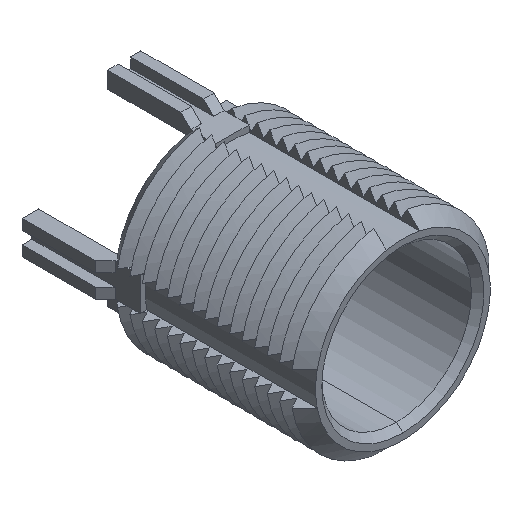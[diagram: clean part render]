
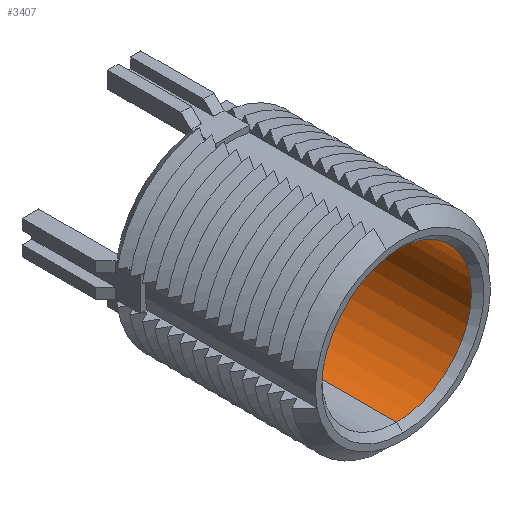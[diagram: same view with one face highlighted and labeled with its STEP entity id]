
A CAD part, isometric view. The second image highlights one B-rep face of the part: STEP entity #3407.
In plain terms, the highlighted cylindrical face has radius 9 mm (diameter 18 mm), a partial arc.
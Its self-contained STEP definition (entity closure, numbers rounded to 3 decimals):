
#98 = EDGE_CURVE ( 'NONE', #4893, #5804, #1085, .T. ) ;
#150 = DIRECTION ( 'NONE',  ( 0., 1., 0. ) ) ;
#152 = LINE ( 'NONE', #231, #3512 ) ;
#231 = CARTESIAN_POINT ( 'NONE',  ( 0., -49.456, 9. ) ) ;
#270 = CYLINDRICAL_SURFACE ( 'NONE', #4763, 9. ) ;
#327 = AXIS2_PLACEMENT_3D ( 'NONE', #1702, #5334, #4624 ) ;
#747 = VECTOR ( 'NONE', #150, 1000. ) ;
#1085 = CIRCLE ( 'NONE', #327, 9. ) ;
#1128 = AXIS2_PLACEMENT_3D ( 'NONE', #1624, #2252, #3925 ) ;
#1178 = VERTEX_POINT ( 'NONE', #1704 ) ;
#1239 = ORIENTED_EDGE ( 'NONE', *, *, #5687, .T. ) ;
#1345 = DIRECTION ( 'NONE',  ( 0., 1., 0. ) ) ;
#1454 = EDGE_LOOP ( 'NONE', ( #6215, #1239, #7583, #5781 ) ) ;
#1624 = CARTESIAN_POINT ( 'NONE',  ( 0., -23.25, 0. ) ) ;
#1702 = CARTESIAN_POINT ( 'NONE',  ( 0., -0.75, 0. ) ) ;
#1704 = CARTESIAN_POINT ( 'NONE',  ( 0., -23.25, -9. ) ) ;
#2092 = DIRECTION ( 'NONE',  ( 0., 1., 0. ) ) ;
#2237 = CARTESIAN_POINT ( 'NONE',  ( 0., -23.25, 9. ) ) ;
#2252 = DIRECTION ( 'NONE',  ( 0., -1., 0. ) ) ;
#2984 = VERTEX_POINT ( 'NONE', #2237 ) ;
#3034 = CIRCLE ( 'NONE', #1128, 9. ) ;
#3290 = LINE ( 'NONE', #5606, #747 ) ;
#3293 = DIRECTION ( 'NONE',  ( 0., 0., 1. ) ) ;
#3358 = EDGE_CURVE ( 'NONE', #2984, #4893, #152, .T. ) ;
#3384 = CARTESIAN_POINT ( 'NONE',  ( 0., -0.75, 9. ) ) ;
#3407 = ADVANCED_FACE ( 'NONE', ( #5097 ), #270, .F. ) ;
#3512 = VECTOR ( 'NONE', #2092, 1000. ) ;
#3925 = DIRECTION ( 'NONE',  ( 0., 0., 1. ) ) ;
#4271 = CARTESIAN_POINT ( 'NONE',  ( 0., -0.75, -9. ) ) ;
#4624 = DIRECTION ( 'NONE',  ( 0., 0., 1. ) ) ;
#4763 = AXIS2_PLACEMENT_3D ( 'NONE', #7456, #1345, #3293 ) ;
#4893 = VERTEX_POINT ( 'NONE', #3384 ) ;
#5097 = FACE_OUTER_BOUND ( 'NONE', #1454, .T. ) ;
#5334 = DIRECTION ( 'NONE',  ( 0., 1., 0. ) ) ;
#5548 = EDGE_CURVE ( 'NONE', #1178, #5804, #3290, .T. ) ;
#5606 = CARTESIAN_POINT ( 'NONE',  ( 0., -49.456, -9. ) ) ;
#5687 = EDGE_CURVE ( 'NONE', #1178, #2984, #3034, .T. ) ;
#5781 = ORIENTED_EDGE ( 'NONE', *, *, #98, .T. ) ;
#5804 = VERTEX_POINT ( 'NONE', #4271 ) ;
#6215 = ORIENTED_EDGE ( 'NONE', *, *, #5548, .F. ) ;
#7456 = CARTESIAN_POINT ( 'NONE',  ( 0., -49.456, 0. ) ) ;
#7583 = ORIENTED_EDGE ( 'NONE', *, *, #3358, .T. ) ;
